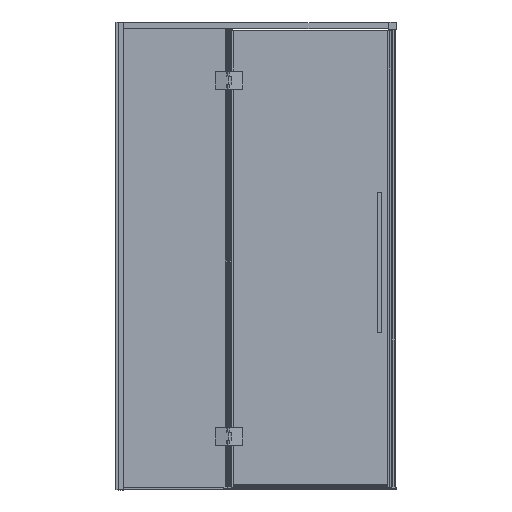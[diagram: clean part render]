
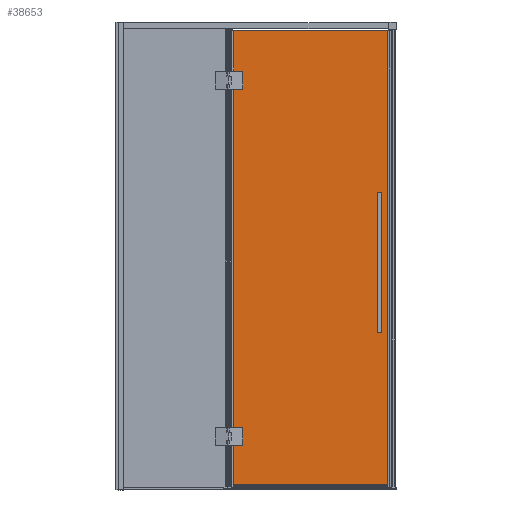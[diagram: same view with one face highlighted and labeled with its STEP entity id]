
A CAD part, top view. The second image highlights one B-rep face of the part: STEP entity #38653.
In plain terms, the highlighted planar face has unit normal (0, 0, 1).
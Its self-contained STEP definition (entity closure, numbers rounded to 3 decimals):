
#38307=DIRECTION('',(0.,1.,0.));
#38308=VECTOR('',#38307,1946.);
#38309=CARTESIAN_POINT('',(-337.,-956.5,3.));
#38310=LINE('',#38309,#38308);
#38311=DIRECTION('',(-1.,0.,0.));
#38312=VECTOR('',#38311,674.);
#38313=CARTESIAN_POINT('',(337.,-956.5,3.));
#38314=LINE('',#38313,#38312);
#38315=CARTESIAN_POINT('',(297.,290.,3.));
#38316=DIRECTION('',(0.,0.,1.));
#38317=DIRECTION('',(1.,0.,0.));
#38318=AXIS2_PLACEMENT_3D('',#38315,#38316,#38317);
#38320=CARTESIAN_POINT('',(297.,290.,3.));
#38321=DIRECTION('',(0.,0.,1.));
#38322=DIRECTION('',(-1.,0.,0.));
#38323=AXIS2_PLACEMENT_3D('',#38320,#38321,#38322);
#38325=CARTESIAN_POINT('',(297.,-290.,3.));
#38326=DIRECTION('',(0.,0.,1.));
#38327=DIRECTION('',(1.,0.,0.));
#38328=AXIS2_PLACEMENT_3D('',#38325,#38326,#38327);
#38330=CARTESIAN_POINT('',(297.,-290.,3.));
#38331=DIRECTION('',(0.,0.,1.));
#38332=DIRECTION('',(-1.,0.,0.));
#38333=AXIS2_PLACEMENT_3D('',#38330,#38331,#38332);
#38335=CARTESIAN_POINT('',(-304.,801.5,3.));
#38336=DIRECTION('',(0.,0.,1.));
#38337=DIRECTION('',(1.,0.,0.));
#38338=AXIS2_PLACEMENT_3D('',#38335,#38336,#38337);
#38340=CARTESIAN_POINT('',(-304.,801.5,3.));
#38341=DIRECTION('',(0.,0.,1.));
#38342=DIRECTION('',(-1.,0.,0.));
#38343=AXIS2_PLACEMENT_3D('',#38340,#38341,#38342);
#38345=CARTESIAN_POINT('',(-304.,756.5,3.));
#38346=DIRECTION('',(0.,0.,1.));
#38347=DIRECTION('',(1.,0.,0.));
#38348=AXIS2_PLACEMENT_3D('',#38345,#38346,#38347);
#38350=CARTESIAN_POINT('',(-304.,756.5,3.));
#38351=DIRECTION('',(0.,0.,1.));
#38352=DIRECTION('',(-1.,0.,0.));
#38353=AXIS2_PLACEMENT_3D('',#38350,#38351,#38352);
#38355=CARTESIAN_POINT('',(-304.,-768.5,3.));
#38356=DIRECTION('',(0.,0.,1.));
#38357=DIRECTION('',(1.,0.,0.));
#38358=AXIS2_PLACEMENT_3D('',#38355,#38356,#38357);
#38360=CARTESIAN_POINT('',(-304.,-768.5,3.));
#38361=DIRECTION('',(0.,0.,1.));
#38362=DIRECTION('',(-1.,0.,0.));
#38363=AXIS2_PLACEMENT_3D('',#38360,#38361,#38362);
#38365=CARTESIAN_POINT('',(-304.,-723.5,3.));
#38366=DIRECTION('',(0.,0.,1.));
#38367=DIRECTION('',(1.,0.,0.));
#38368=AXIS2_PLACEMENT_3D('',#38365,#38366,#38367);
#38370=CARTESIAN_POINT('',(-304.,-723.5,3.));
#38371=DIRECTION('',(0.,0.,1.));
#38372=DIRECTION('',(-1.,0.,0.));
#38373=AXIS2_PLACEMENT_3D('',#38370,#38371,#38372);
#38379=DIRECTION('',(-1.,0.,0.));
#38380=VECTOR('',#38379,674.);
#38381=CARTESIAN_POINT('',(337.,989.5,3.));
#38382=LINE('',#38381,#38380);
#38459=DIRECTION('',(0.,1.,0.));
#38460=VECTOR('',#38459,1946.);
#38461=CARTESIAN_POINT('',(337.,-956.5,3.));
#38462=LINE('',#38461,#38460);
#38523=CARTESIAN_POINT('',(-337.,-956.5,3.));
#38524=CARTESIAN_POINT('',(-337.,989.5,3.));
#38525=VERTEX_POINT('',#38523);
#38526=VERTEX_POINT('',#38524);
#38531=CARTESIAN_POINT('',(337.,989.5,3.));
#38532=VERTEX_POINT('',#38531);
#38533=CARTESIAN_POINT('',(337.,-956.5,3.));
#38534=VERTEX_POINT('',#38533);
#38535=CARTESIAN_POINT('',(300.,290.,3.));
#38536=CARTESIAN_POINT('',(294.,290.,3.));
#38537=VERTEX_POINT('',#38535);
#38538=VERTEX_POINT('',#38536);
#38539=CARTESIAN_POINT('',(300.,-290.,3.));
#38540=CARTESIAN_POINT('',(294.,-290.,3.));
#38541=VERTEX_POINT('',#38539);
#38542=VERTEX_POINT('',#38540);
#38543=CARTESIAN_POINT('',(-294.5,801.5,3.));
#38544=CARTESIAN_POINT('',(-313.5,801.5,3.));
#38545=VERTEX_POINT('',#38543);
#38546=VERTEX_POINT('',#38544);
#38547=CARTESIAN_POINT('',(-294.5,756.5,3.));
#38548=CARTESIAN_POINT('',(-313.5,756.5,3.));
#38549=VERTEX_POINT('',#38547);
#38550=VERTEX_POINT('',#38548);
#38551=CARTESIAN_POINT('',(-294.5,-768.5,3.));
#38552=CARTESIAN_POINT('',(-313.5,-768.5,3.));
#38553=VERTEX_POINT('',#38551);
#38554=VERTEX_POINT('',#38552);
#38555=CARTESIAN_POINT('',(-294.5,-723.5,3.));
#38556=CARTESIAN_POINT('',(-313.5,-723.5,3.));
#38557=VERTEX_POINT('',#38555);
#38558=VERTEX_POINT('',#38556);
#38603=CARTESIAN_POINT('',(-337.,989.5,3.));
#38604=DIRECTION('',(0.,0.,1.));
#38605=DIRECTION('',(0.,-1.,0.));
#38606=AXIS2_PLACEMENT_3D('',#38603,#38604,#38605);
#38607=PLANE('',#38606);
#38608=ORIENTED_EDGE('',*,*,#38592,.T.);
#38610=ORIENTED_EDGE('',*,*,#38609,.F.);
#38612=ORIENTED_EDGE('',*,*,#38611,.F.);
#38614=ORIENTED_EDGE('',*,*,#38613,.T.);
#38615=EDGE_LOOP('',(#38608,#38610,#38612,#38614));
#38616=FACE_OUTER_BOUND('',#38615,.F.);
#38618=ORIENTED_EDGE('',*,*,#38617,.T.);
#38620=ORIENTED_EDGE('',*,*,#38619,.T.);
#38621=EDGE_LOOP('',(#38618,#38620));
#38622=FACE_BOUND('',#38621,.F.);
#38624=ORIENTED_EDGE('',*,*,#38623,.T.);
#38626=ORIENTED_EDGE('',*,*,#38625,.T.);
#38627=EDGE_LOOP('',(#38624,#38626));
#38628=FACE_BOUND('',#38627,.F.);
#38630=ORIENTED_EDGE('',*,*,#38629,.T.);
#38632=ORIENTED_EDGE('',*,*,#38631,.T.);
#38633=EDGE_LOOP('',(#38630,#38632));
#38634=FACE_BOUND('',#38633,.F.);
#38636=ORIENTED_EDGE('',*,*,#38635,.T.);
#38638=ORIENTED_EDGE('',*,*,#38637,.T.);
#38639=EDGE_LOOP('',(#38636,#38638));
#38640=FACE_BOUND('',#38639,.F.);
#38642=ORIENTED_EDGE('',*,*,#38641,.T.);
#38644=ORIENTED_EDGE('',*,*,#38643,.T.);
#38645=EDGE_LOOP('',(#38642,#38644));
#38646=FACE_BOUND('',#38645,.F.);
#38648=ORIENTED_EDGE('',*,*,#38647,.T.);
#38650=ORIENTED_EDGE('',*,*,#38649,.T.);
#38651=EDGE_LOOP('',(#38648,#38650));
#38652=FACE_BOUND('',#38651,.F.);
#38653=ADVANCED_FACE('',(#38616,#38622,#38628,#38634,#38640,#38646,#38652),
#38607,.T.);
#38319=CIRCLE('',#38318,3.);
#38324=CIRCLE('',#38323,3.);
#38329=CIRCLE('',#38328,3.);
#38334=CIRCLE('',#38333,3.);
#38339=CIRCLE('',#38338,9.5);
#38344=CIRCLE('',#38343,9.5);
#38349=CIRCLE('',#38348,9.5);
#38354=CIRCLE('',#38353,9.5);
#38359=CIRCLE('',#38358,9.5);
#38364=CIRCLE('',#38363,9.5);
#38369=CIRCLE('',#38368,9.5);
#38374=CIRCLE('',#38373,9.5);
#38592=EDGE_CURVE('',#38525,#38526,#38310,.T.);
#38609=EDGE_CURVE('',#38532,#38526,#38382,.T.);
#38611=EDGE_CURVE('',#38534,#38532,#38462,.T.);
#38613=EDGE_CURVE('',#38534,#38525,#38314,.T.);
#38617=EDGE_CURVE('',#38537,#38538,#38319,.T.);
#38619=EDGE_CURVE('',#38538,#38537,#38324,.T.);
#38623=EDGE_CURVE('',#38541,#38542,#38329,.T.);
#38625=EDGE_CURVE('',#38542,#38541,#38334,.T.);
#38629=EDGE_CURVE('',#38545,#38546,#38339,.T.);
#38631=EDGE_CURVE('',#38546,#38545,#38344,.T.);
#38635=EDGE_CURVE('',#38549,#38550,#38349,.T.);
#38637=EDGE_CURVE('',#38550,#38549,#38354,.T.);
#38641=EDGE_CURVE('',#38553,#38554,#38359,.T.);
#38643=EDGE_CURVE('',#38554,#38553,#38364,.T.);
#38647=EDGE_CURVE('',#38557,#38558,#38369,.T.);
#38649=EDGE_CURVE('',#38558,#38557,#38374,.T.);
